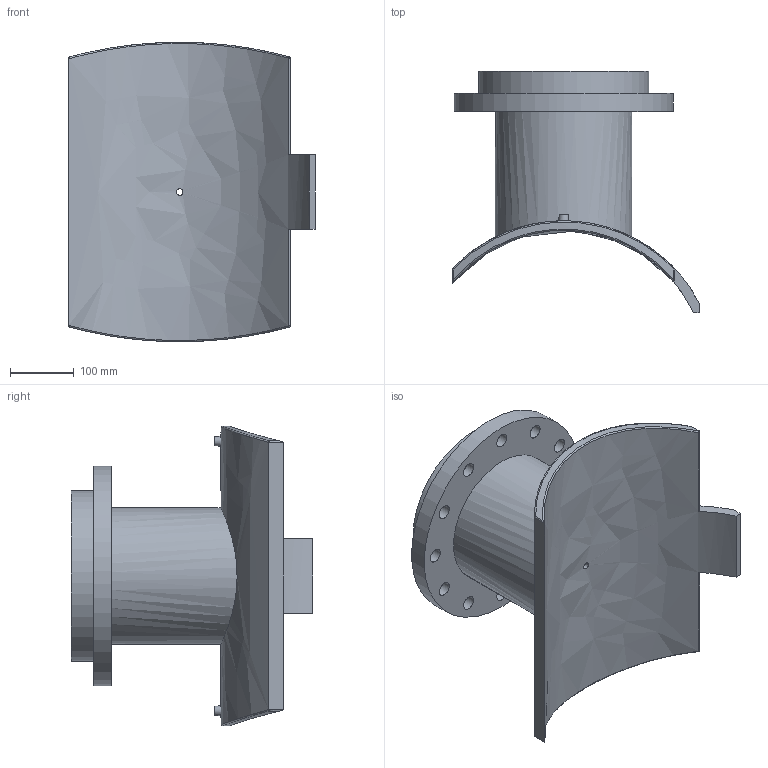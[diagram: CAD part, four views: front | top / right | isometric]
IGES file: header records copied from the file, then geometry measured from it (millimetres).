
Global section: file name: 495903450200T; native system: Autodesk Inventor 2019; preprocessor: unknown; author: KIM; date: 20240403.210050; units: millimetre
Bounding box: 387 x 379.12 x 469.91 mm (x, y, z)
Volume: 8711930.6 mm3; surface area: 853205.5 mm2
Topology: 1 solids, 1 shells, 62 faces, 163 edges, 126 vertices
Faces by surface type: bspline 62
